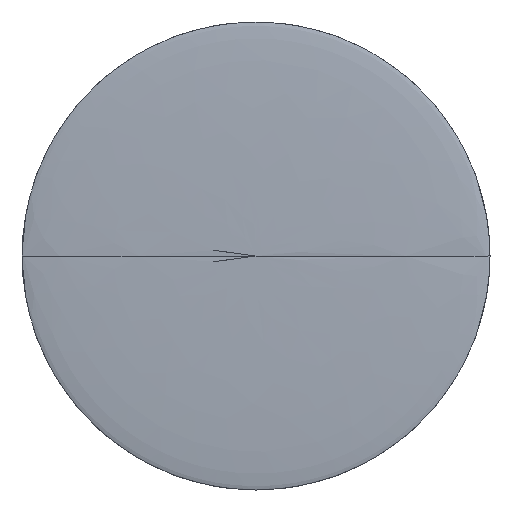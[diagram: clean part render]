
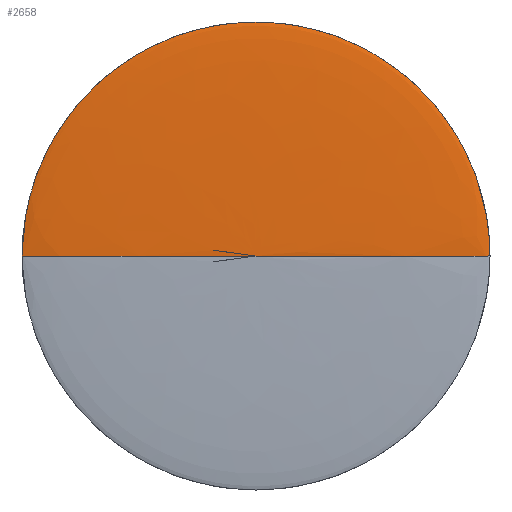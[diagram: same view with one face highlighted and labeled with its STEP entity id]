
A CAD part, front view. The second image highlights one B-rep face of the part: STEP entity #2658.
In plain terms, the highlighted free-form (B-spline) face has degree [2, 2] with [3, 9] control points.
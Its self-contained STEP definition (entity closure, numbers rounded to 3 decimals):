
#15=B_SPLINE_CURVE_WITH_KNOTS('',3,(#4680,#4681,#4682,#4683,#4684,#4685,
#4686,#4687,#4688,#4689,#4690,#4691,#4692,#4693,#4694,#4695,#4696,#4697,
#4698,#4699),.UNSPECIFIED.,.F.,.F.,(4,2,2,2,2,2,2,2,2,4),(-1.833,
-1.832,-0.542,-0.141,-0.045,
-0.017,-0.007,-0.003,-0.001,
0.),.UNSPECIFIED.);
#16=B_SPLINE_CURVE_WITH_KNOTS('',3,(#4702,#4703,#4704,#4705,#4706,#4707,
#4708,#4709,#4710,#4711,#4712,#4713,#4714,#4715,#4716,#4717,#4718,#4719,
#4720,#4721),.UNSPECIFIED.,.F.,.F.,(4,2,2,2,2,2,2,2,2,4),(-2.634,
-2.631,-2.629,-2.624,-2.61,
-2.569,-2.43,-1.854,0.,0.001),
 .UNSPECIFIED.);
#17=(
BOUNDED_SURFACE()
B_SPLINE_SURFACE(2,2,((#4651,#4652,#4653,#4654,#4655,#4656,#4657,#4658,
#4659),(#4660,#4661,#4662,#4663,#4664,#4665,#4666,#4667,#4668),(#4669,#4670,
#4671,#4672,#4673,#4674,#4675,#4676,#4677)),.UNSPECIFIED.,.F.,.T.,.F.)
B_SPLINE_SURFACE_WITH_KNOTS((3,3),(3,2,2,2,3),(0.,1.571),(0.,
1.571,3.142,4.712,6.283),
 .UNSPECIFIED.)
GEOMETRIC_REPRESENTATION_ITEM()
RATIONAL_B_SPLINE_SURFACE(((1.,0.707,1.,0.707,1.,
0.707,1.,0.707,1.),(0.707,0.5,0.707,
0.5,0.707,0.5,0.707,0.5,0.707),(1.,
0.707,1.,0.707,1.,0.707,1.,0.707,
1.)))
REPRESENTATION_ITEM('')
SURFACE()
);
#251=CIRCLE('',#2967,27.5);
#381=FACE_OUTER_BOUND('',#521,.T.);
#521=EDGE_LOOP('',(#2356,#2357,#2358));
#1235=VERTEX_POINT('',#4678);
#1236=VERTEX_POINT('',#4679);
#1237=VERTEX_POINT('',#4700);
#1629=EDGE_CURVE('',#1235,#1236,#15,.T.);
#1630=EDGE_CURVE('',#1236,#1237,#251,.T.);
#1631=EDGE_CURVE('',#1237,#1235,#16,.T.);
#2356=ORIENTED_EDGE('',*,*,#1629,.T.);
#2357=ORIENTED_EDGE('',*,*,#1630,.T.);
#2358=ORIENTED_EDGE('',*,*,#1631,.T.);
#2658=ADVANCED_FACE('',(#381),#17,.F.);
#2967=AXIS2_PLACEMENT_3D('',#4701,#3725,#3726);
#3725=DIRECTION('center_axis',(0.,-1.,0.));
#3726=DIRECTION('ref_axis',(1.,0.,0.));
#4651=CARTESIAN_POINT('Ctrl Pts',(0.,0.,-27.5));
#4652=CARTESIAN_POINT('Ctrl Pts',(27.5,0.,-27.5));
#4653=CARTESIAN_POINT('Ctrl Pts',(27.5,0.,0.));
#4654=CARTESIAN_POINT('Ctrl Pts',(27.5,0.,27.5));
#4655=CARTESIAN_POINT('Ctrl Pts',(0.,0.,27.5));
#4656=CARTESIAN_POINT('Ctrl Pts',(-27.5,0.,27.5));
#4657=CARTESIAN_POINT('Ctrl Pts',(-27.5,0.,0.));
#4658=CARTESIAN_POINT('Ctrl Pts',(-27.5,0.,-27.5));
#4659=CARTESIAN_POINT('Ctrl Pts',(0.,0.,-27.5));
#4660=CARTESIAN_POINT('Ctrl Pts',(0.,-1.,-27.5));
#4661=CARTESIAN_POINT('Ctrl Pts',(27.5,-1.,-27.5));
#4662=CARTESIAN_POINT('Ctrl Pts',(27.5,-1.,0.));
#4663=CARTESIAN_POINT('Ctrl Pts',(27.5,-1.,27.5));
#4664=CARTESIAN_POINT('Ctrl Pts',(0.,-1.,27.5));
#4665=CARTESIAN_POINT('Ctrl Pts',(-27.5,-1.,27.5));
#4666=CARTESIAN_POINT('Ctrl Pts',(-27.5,-1.,0.));
#4667=CARTESIAN_POINT('Ctrl Pts',(-27.5,-1.,-27.5));
#4668=CARTESIAN_POINT('Ctrl Pts',(0.,-1.,-27.5));
#4669=CARTESIAN_POINT('Ctrl Pts',(0.,-1.,0.));
#4670=CARTESIAN_POINT('Ctrl Pts',(0.,-1.,0.));
#4671=CARTESIAN_POINT('Ctrl Pts',(0.,-1.,0.));
#4672=CARTESIAN_POINT('Ctrl Pts',(0.,-1.,0.));
#4673=CARTESIAN_POINT('Ctrl Pts',(0.,-1.,0.));
#4674=CARTESIAN_POINT('Ctrl Pts',(0.,-1.,0.));
#4675=CARTESIAN_POINT('Ctrl Pts',(0.,-1.,0.));
#4676=CARTESIAN_POINT('Ctrl Pts',(0.,-1.,0.));
#4677=CARTESIAN_POINT('Ctrl Pts',(0.,-1.,0.));
#4678=CARTESIAN_POINT('',(0.,-1.,0.));
#4679=CARTESIAN_POINT('',(27.5,0.,0.));
#4680=CARTESIAN_POINT('Ctrl Pts',(0.,-1.,0.));
#4681=CARTESIAN_POINT('Ctrl Pts',(0.004,-1.,0.));
#4682=CARTESIAN_POINT('Ctrl Pts',(0.008,-1.,
0.));
#4683=CARTESIAN_POINT('Ctrl Pts',(6.192,-1.,0.));
#4684=CARTESIAN_POINT('Ctrl Pts',(13.362,-0.924,0.));
#4685=CARTESIAN_POINT('Ctrl Pts',(21.082,-0.649,0.));
#4686=CARTESIAN_POINT('Ctrl Pts',(23.659,-0.539,0.));
#4687=CARTESIAN_POINT('Ctrl Pts',(25.903,-0.338,0.));
#4688=CARTESIAN_POINT('Ctrl Pts',(26.549,-0.274,0.));
#4689=CARTESIAN_POINT('Ctrl Pts',(27.118,-0.168,0.));
#4690=CARTESIAN_POINT('Ctrl Pts',(27.261,-0.137,0.));
#4691=CARTESIAN_POINT('Ctrl Pts',(27.397,-0.087,
0.));
#4692=CARTESIAN_POINT('Ctrl Pts',(27.433,-0.072,
0.));
#4693=CARTESIAN_POINT('Ctrl Pts',(27.469,-0.048,
0.));
#4694=CARTESIAN_POINT('Ctrl Pts',(27.479,-0.04,
0.));
#4695=CARTESIAN_POINT('Ctrl Pts',(27.491,-0.026,0.));
#4696=CARTESIAN_POINT('Ctrl Pts',(27.495,-0.02,
0.));
#4697=CARTESIAN_POINT('Ctrl Pts',(27.499,-0.01,
0.));
#4698=CARTESIAN_POINT('Ctrl Pts',(27.5,-0.005,0.));
#4699=CARTESIAN_POINT('Ctrl Pts',(27.5,0.,0.));
#4700=CARTESIAN_POINT('',(-27.5,0.,0.));
#4701=CARTESIAN_POINT('Origin',(0.,0.,0.));
#4702=CARTESIAN_POINT('Ctrl Pts',(-27.5,0.,0.));
#4703=CARTESIAN_POINT('Ctrl Pts',(-27.5,-0.005,0.));
#4704=CARTESIAN_POINT('Ctrl Pts',(-27.499,-0.01,
0.));
#4705=CARTESIAN_POINT('Ctrl Pts',(-27.495,-0.02,
0.));
#4706=CARTESIAN_POINT('Ctrl Pts',(-27.491,-0.026,
0.));
#4707=CARTESIAN_POINT('Ctrl Pts',(-27.479,-0.04,
0.));
#4708=CARTESIAN_POINT('Ctrl Pts',(-27.469,-0.048,
0.));
#4709=CARTESIAN_POINT('Ctrl Pts',(-27.433,-0.072,
0.));
#4710=CARTESIAN_POINT('Ctrl Pts',(-27.397,-0.087,
0.));
#4711=CARTESIAN_POINT('Ctrl Pts',(-27.261,-0.137,
0.));
#4712=CARTESIAN_POINT('Ctrl Pts',(-27.118,-0.168,
0.));
#4713=CARTESIAN_POINT('Ctrl Pts',(-26.549,-0.274,
0.));
#4714=CARTESIAN_POINT('Ctrl Pts',(-25.903,-0.338,
0.));
#4715=CARTESIAN_POINT('Ctrl Pts',(-23.659,-0.539,
0.));
#4716=CARTESIAN_POINT('Ctrl Pts',(-21.082,-0.649,
0.));
#4717=CARTESIAN_POINT('Ctrl Pts',(-13.362,-0.924,
0.));
#4718=CARTESIAN_POINT('Ctrl Pts',(-6.192,-1.,
0.));
#4719=CARTESIAN_POINT('Ctrl Pts',(-0.008,-1.,
0.));
#4720=CARTESIAN_POINT('Ctrl Pts',(-0.004,-1.,0.));
#4721=CARTESIAN_POINT('Ctrl Pts',(0.,-1.,0.));
